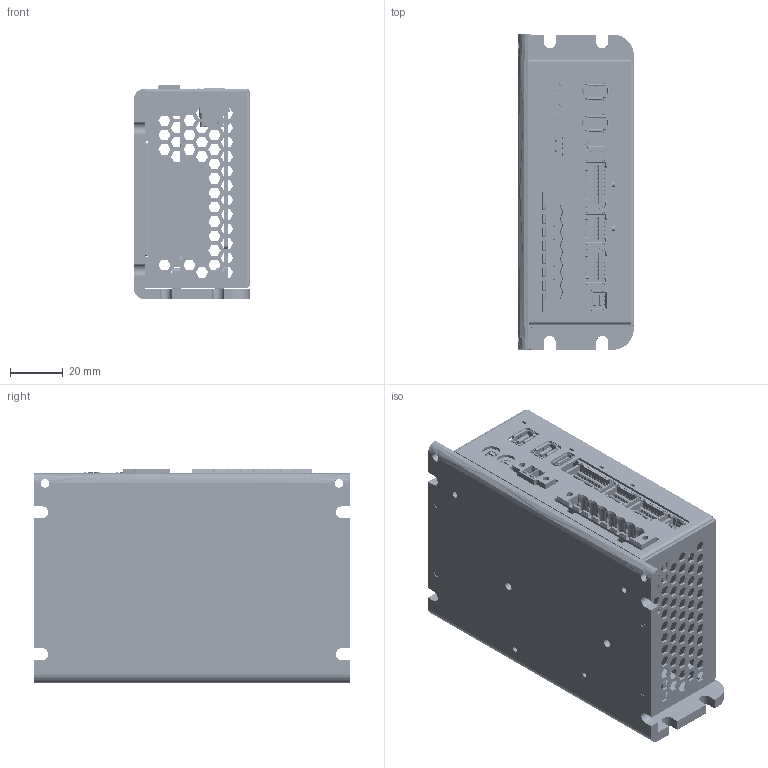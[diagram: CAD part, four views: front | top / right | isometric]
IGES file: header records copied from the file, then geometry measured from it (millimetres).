
Start section: SolidWorks IGES file using analytic representation for surfaces
Global section: file name: C:\Users\yakovs\Desktop\New folder\P-BAS_ECAT_L-SHAPE.IGS; native system: SolidWorks 2022; preprocessor: SolidWorks 2022; author: Yakovs; date: 240610.144713; units: millimetre
Bounding box: 44 x 120 x 81.5 mm (x, y, z)
Surface area: 106646.4 mm2 (no closed solid volume)
Topology: 0 solids, 0 shells, 10918 faces, 87206 edges, 87076 vertices
Faces by surface type: bspline 8570, revolution 2348
